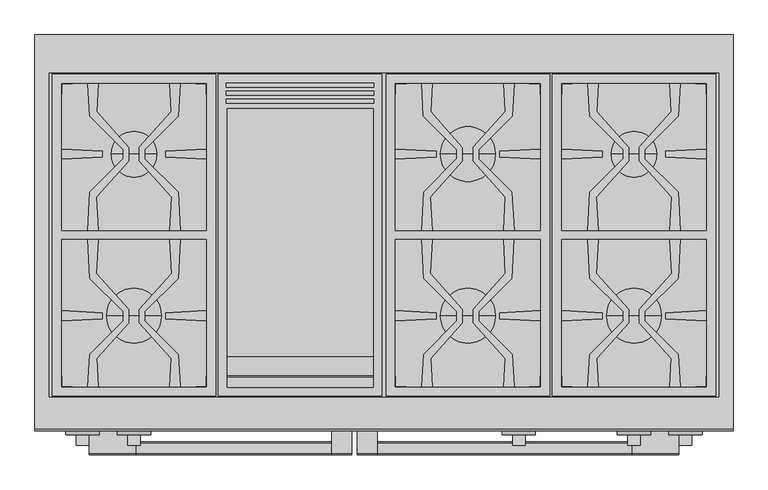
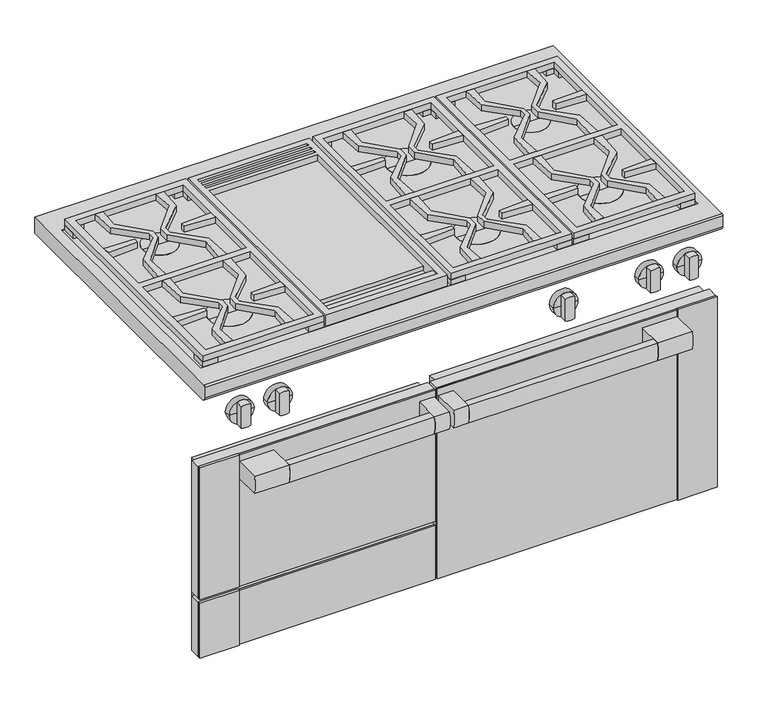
"""IFC4 building model written with IfcOpenShell, lengths in millimetres: proxy geometry, 11791700_USA_HR1956-3G_EDST-CLST : 25195681_USA_11791700_HR1956-3G_EDST-CLST."""

from ifc_helpers import new_model, si_unit, point, frame, frame_2d, origin, place, context, project, spatial, polyline, circle_curve, trimmed, segment, composite_curve, outline, extrude, faceted_brep, source, transform, mapped, element, save
from ifc_brep_helpers import plane_surface, cylinder_surface, advanced_brep


def specialty_equipment_1e4faf78(model_context):
    return source(origin(), model_context, "Body", "SolidModel", [
        faceted_brep([(608.5, -664.7, 684.0), (608.5, -664.7, 210.0), (515.5, -664.7, 210.0), (515.5, -664.7, 211.0), (607.5, -664.7, 211.0), (607.5, -664.7, 683.0), (515.5, -664.7, 683.0), (515.5, -664.7, 684.0), (608.5, -670.0, 684.0), (515.5, -670.0, 684.0), (515.5, -670.0, 210.0), (608.5, -670.0, 210.0), (515.5, -668.7, 683.0), (515.5, -668.7, 211.0), (607.5, -668.7, 683.0), (607.5, -668.7, 211.0)], [[[0, 1, 2, 3, 4, 5, 6, 7]], [[8, 9, 10, 11]], [[1, 0, 8, 11]], [[2, 1, 11, 10]], [[10, 9, 7, 6, 12, 13, 3, 2]], [[0, 7, 9, 8]], [[14, 15, 13, 12]], [[15, 14, 5, 4]], [[13, 15, 4, 3]], [[14, 12, 6, 5]]]),
        extrude(outline(polyline([(-48.5, -664.7), (607.5, -664.7), (607.5, -668.7), (-48.5, -668.7), (-48.5, -664.7)])), frame((0.0, 0.0, 211.0), z_axis=(0.0, 0.0, 1.0), x_axis=(1.0, 0.0, 0.0)), (0.0, 0.0, 1.0), 472.0),
        faceted_brep([(-515.5, -664.7, 355.0), (-608.5, -664.7, 355.0), (-608.5, -664.7, 684.0), (-515.5, -664.7, 684.0), (-515.5, -664.7, 683.0), (-607.5, -664.7, 683.0), (-607.5, -664.7, 356.0), (-515.5, -664.7, 356.0), (-515.5, -670.0, 684.0), (-608.5, -670.0, 684.0), (-608.5, -670.0, 355.0), (-515.5, -670.0, 355.0), (-515.5, -668.7, 356.0), (-515.5, -668.7, 683.0), (-607.5, -668.7, 356.0), (-607.5, -668.7, 683.0)], [[[0, 1, 2, 3, 4, 5, 6, 7]], [[8, 9, 10, 11]], [[8, 11, 0, 7, 12, 13, 4, 3]], [[1, 0, 11, 10]], [[2, 1, 10, 9]], [[3, 2, 9, 8]], [[12, 14, 15, 13]], [[14, 12, 7, 6]], [[15, 14, 6, 5]], [[13, 15, 5, 4]]]),
        extrude(outline(polyline([(-607.5, -664.7), (-53.5, -664.7), (-53.5, -668.7), (-607.5, -668.7), (-607.5, -664.7)])), frame((0.0, 0.0, 356.0), z_axis=(0.0, 0.0, 1.0), x_axis=(1.0, 0.0, 0.0)), (0.0, 0.0, 1.0), 327.0),
        faceted_brep([(-515.5, -664.7, 210.0), (-608.5, -664.7, 210.0), (-608.5, -664.7, 347.0), (-515.5, -664.7, 347.0), (-515.5, -664.7, 346.0), (-607.5, -664.7, 346.0), (-607.5, -664.7, 211.0), (-515.5, -664.7, 211.0), (-515.5, -670.0, 347.0), (-608.5, -670.0, 347.0), (-608.5, -670.0, 210.0), (-515.5, -670.0, 210.0), (-515.5, -668.7, 211.0), (-515.5, -668.7, 346.0), (-607.5, -668.7, 211.0), (-607.5, -668.7, 346.0)], [[[0, 1, 2, 3, 4, 5, 6, 7]], [[8, 9, 10, 11]], [[8, 11, 0, 7, 12, 13, 4, 3]], [[1, 0, 11, 10]], [[2, 1, 10, 9]], [[3, 2, 9, 8]], [[12, 14, 15, 13]], [[14, 12, 7, 6]], [[15, 14, 6, 5]], [[13, 15, 5, 4]]]),
        extrude(outline(polyline([(-607.5, -664.7), (-53.5, -664.7), (-53.5, -668.7), (-607.5, -668.7), (-607.5, -664.7)])), frame((0.0, 0.0, 211.0), z_axis=(0.0, 0.0, 1.0), x_axis=(1.0, 0.0, 0.0)), (0.0, 0.0, 1.0), 135.0),
        extrude(outline(polyline([(-608.5, -638.0), (-53.5, -638.0), (-53.5, -664.7), (-608.5, -664.7), (-608.5, -638.0)])), frame((0.0, 0.0, 356.0), z_axis=(0.0, 0.0, 1.0), x_axis=(1.0, 0.0, 0.0)), (0.0, 0.0, 1.0), 327.0),
        extrude(outline(polyline([(-48.5, -638.0), (608.5, -638.0), (608.5, -664.7), (-48.5, -664.7), (-48.5, -638.0)])), frame((0.0, 0.0, 211.0), z_axis=(0.0, 0.0, 1.0), x_axis=(1.0, 0.0, 0.0)), (0.0, 0.0, 1.0), 472.0),
        extrude(outline(polyline([(-608.5, -638.0), (-53.5, -638.0), (-53.5, -664.7), (-608.5, -664.7), (-608.5, -638.0)])), frame((0.0, 0.0, 211.0), z_axis=(0.0, 0.0, 1.0), x_axis=(1.0, 0.0, 0.0)), (0.0, 0.0, 1.0), 135.0),
        extrude(outline(polyline([(-36.5, -617.0), (596.5, -617.0), (596.5, -638.0), (-36.5, -638.0), (-36.5, -617.0)])), frame((0.0, 0.0, 218.0), z_axis=(0.0, 0.0, 1.0), x_axis=(1.0, 0.0, 0.0)), (0.0, 0.0, 1.0), 464.0),
        extrude(outline(polyline([(-596.5, -617.0), (-65.5, -617.0), (-65.5, -638.0), (-596.5, -638.0), (-596.5, -617.0)])), frame((0.0, 0.0, 359.0), z_axis=(0.0, 0.0, 1.0), x_axis=(1.0, 0.0, 0.0)), (0.0, 0.0, 1.0), 315.0),
        extrude(outline(polyline([(-596.5, -617.0), (-65.5, -617.0), (-65.5, -638.0), (-596.5, -638.0), (-596.5, -617.0)])), frame((0.0, 0.0, 211.5), z_axis=(0.0, 0.0, 1.0), x_axis=(1.0, 0.0, 0.0)), (0.0, 0.0, 1.0), 134.0),
        extrude(outline(composite_curve([segment(polyline([(-668.7, 667.0), (-668.7, 624.0), (-731.0, 624.0)]), True, "CONTINUOUS"), segment(trimmed(circle_curve(frame_2d((-655.4583333, 645.5)), 78.5416667), [point((-731.0, 624.0))], [point((-731.0, 667.0))], False, "CARTESIAN"), True, "CONTINUOUS"), segment(polyline([(-731.0, 667.0), (-668.7, 667.0)]), True, "CONTINUOUS")], self_intersect=False)), frame((-514.5, 0.0, 0.0), z_axis=(1.0, 0.0, 0.0), x_axis=(0.0, 1.0, 0.0)), (0.0, 0.0, 1.0), 81.0),
        extrude(outline(composite_curve([segment(polyline([(-731.0, 667.0), (-668.7, 667.0), (-668.7, 624.0), (-731.0, 624.0)]), True, "CONTINUOUS"), segment(trimmed(circle_curve(frame_2d((-655.4583333, 645.5)), 78.5416667), [point((-731.0, 624.0))], [point((-731.0, 667.0))], False, "CARTESIAN"), True, "CONTINUOUS")], self_intersect=False)), frame((433.5, 0.0, 0.0), z_axis=(1.0, 0.0, 0.0), x_axis=(0.0, 1.0, 0.0)), (0.0, 0.0, 1.0), 81.0),
        extrude(outline(composite_curve([segment(polyline([(-731.0, 667.0), (-668.7, 667.0), (-668.7, 624.0), (-731.0, 624.0)]), True, "CONTINUOUS"), segment(trimmed(circle_curve(frame_2d((-655.4583333, 645.5)), 78.5416667), [point((-731.0, 624.0))], [point((-731.0, 667.0))], False, "CARTESIAN"), True, "CONTINUOUS")], self_intersect=False)), frame((-91.5, 0.0, 0.0), z_axis=(1.0, 0.0, 0.0), x_axis=(0.0, 1.0, 0.0)), (0.0, 0.0, 1.0), 35.0),
        extrude(outline(composite_curve([segment(polyline([(-731.0, 667.0), (-668.7, 667.0), (-668.7, 624.0), (-731.0, 624.0)]), True, "CONTINUOUS"), segment(trimmed(circle_curve(frame_2d((-655.4583333, 645.5)), 78.5416667), [point((-731.0, 624.0))], [point((-731.0, 667.0))], False, "CARTESIAN"), True, "CONTINUOUS")], self_intersect=False)), frame((-46.5, 0.0, 0.0), z_axis=(1.0, 0.0, 0.0), x_axis=(0.0, 1.0, 0.0)), (0.0, 0.0, 1.0), 35.0),
        extrude(outline(composite_curve([segment(trimmed(circle_curve(frame_2d((-655.4583333, 645.5)), 78.5416667), [point((-731.0, 624.0))], [point((-731.0, 667.0))], False, "CARTESIAN"), True, "CONTINUOUS"), segment(polyline([(-731.0, 667.0), (-714.0, 667.0)]), True, "CONTINUOUS"), segment(trimmed(circle_curve(frame_2d((-789.5416667, 645.5)), 78.5416667), [point((-714.0, 667.0))], [point((-714.0, 624.0))], False, "CARTESIAN"), True, "CONTINUOUS"), segment(polyline([(-714.0, 624.0), (-731.0, 624.0)]), True, "CONTINUOUS")], self_intersect=False)), frame((-433.5, 0.0, 0.0), z_axis=(1.0, 0.0, 0.0), x_axis=(0.0, 1.0, 0.0)), (0.0, 0.0, 1.0), 342.0),
        extrude(outline(composite_curve([segment(trimmed(circle_curve(frame_2d((-655.4583333, 645.5)), 78.5416667), [point((-731.0, 624.0))], [point((-731.0, 667.0))], False, "CARTESIAN"), True, "CONTINUOUS"), segment(polyline([(-731.0, 667.0), (-714.0, 667.0)]), True, "CONTINUOUS"), segment(trimmed(circle_curve(frame_2d((-789.5416667, 645.5)), 78.5416667), [point((-714.0, 667.0))], [point((-714.0, 624.0))], False, "CARTESIAN"), True, "CONTINUOUS"), segment(polyline([(-714.0, 624.0), (-731.0, 624.0)]), True, "CONTINUOUS")], self_intersect=False)), frame((-11.5, 0.0, 0.0), z_axis=(1.0, 0.0, 0.0), x_axis=(0.0, 1.0, 0.0)), (0.0, 0.0, 1.0), 445.0),
        advanced_brep(
        [(609.5, 0.0, 902.0), (609.5, -688.3499547, 902.0), (609.5, -692.0, 898.3499547), (609.5, -692.0, 872.0), (609.5, -682.0, 862.0), (609.5, 0.0, 862.0), (-609.5, 0.0, 902.0), (-609.5, 0.0, 862.0), (-609.5, -682.0, 862.0), (-609.5, -692.0, 872.0), (-609.5, -692.0, 898.3499547), (-609.5, -688.3499547, 902.0), (-584.5, -67.0, 902.0), (584.5, -67.0, 902.0), (584.5, -633.0, 902.0), (-584.5, -633.0, 902.0), (584.5, -67.0, 870.0), (-584.5, -67.0, 870.0), (-584.5, -633.0, 870.0), (584.5, -633.0, 870.0)],
        [
            (0, 1),
            (1, 2, circle_curve(frame((609.5, -688.0, 898.0), z_axis=(1.0, 0.0, 0.0), x_axis=(0.0, 0.0, 1.0)), 4.0152794)),
            (2, 3),
            (3, 4, circle_curve(frame((609.5, -682.0, 872.0), z_axis=(1.0, 0.0, 0.0), x_axis=(0.0, 0.0, 1.0)), 10.0)),
            (4, 5),
            (5, 0),
            (6, 7),
            (7, 8),
            (8, 9, circle_curve(frame((-609.5, -682.0, 872.0), z_axis=(-1.0, 0.0, 0.0), x_axis=(0.0, 0.0, 1.0)), 10.0)),
            (9, 10),
            (10, 11, circle_curve(frame((-609.5, -688.0, 898.0), z_axis=(-1.0, 0.0, 0.0), x_axis=(0.0, 0.0, 1.0)), 4.0152794)),
            (11, 6),
            (0, 6),
            (11, 1),
            (12, 13),
            (13, 14),
            (14, 15),
            (15, 12),
            (10, 2),
            (9, 3),
            (8, 4),
            (7, 5),
            (16, 17),
            (17, 18),
            (18, 19),
            (19, 16),
            (16, 13),
            (12, 17),
            (15, 18),
            (14, 19),
        ],
        [
            plane_surface(frame((609.5, -688.3499547, 902.0), z_axis=(1.0, 0.0, 0.0), x_axis=(0.0, -1.0, 0.0))),
            plane_surface(frame((-609.5, -688.3499547, 902.0), z_axis=(-1.0, 0.0, 0.0), x_axis=(0.0, 1.0, 0.0))),
            plane_surface(frame((609.5, 0.0, 902.0), z_axis=(0.0, 0.0, 1.0), x_axis=(-1.0, 0.0, 0.0))),
            cylinder_surface(frame((-609.5, -688.0, 898.0), z_axis=(1.0, 0.0, 0.0), x_axis=(0.0, 0.0, 1.0)), 4.0152794),
            plane_surface(frame((609.5, -692.0, 898.3499547), z_axis=(0.0, -1.0, 0.0), x_axis=(-1.0, 0.0, 0.0))),
            cylinder_surface(frame((-609.5, -682.0, 872.0), z_axis=(1.0, 0.0, 0.0), x_axis=(0.0, 0.0, 1.0)), 10.0),
            plane_surface(frame((609.5, -682.0, 862.0), z_axis=(0.0, 0.0, -1.0), x_axis=(-1.0, 0.0, 0.0))),
            plane_surface(frame((609.5, 0.0, 862.0), z_axis=(0.0, 1.0, 0.0), x_axis=(-1.0, 0.0, 0.0))),
            plane_surface(frame((-584.5, -67.0, 870.0), z_axis=(0.0, 0.0, 1.0), x_axis=(1.0, 0.0, 0.0))),
            plane_surface(frame((584.5, -67.0, 902.0), z_axis=(0.0, -1.0, 0.0), x_axis=(0.0, 0.0, -1.0))),
            plane_surface(frame((-584.5, -67.0, 902.0), z_axis=(1.0, 0.0, 0.0), x_axis=(0.0, 0.0, -1.0))),
            plane_surface(frame((-584.5, -633.0, 902.0), z_axis=(0.0, 1.0, 0.0), x_axis=(0.0, 0.0, -1.0))),
            plane_surface(frame((584.5, -633.0, 902.0), z_axis=(-1.0, 0.0, 0.0), x_axis=(0.0, 0.0, -1.0))),
        ],
        [
            (0, [[1, 2, 3, 4, 5, 6]]),
            (1, [[7, 8, 9, 10, 11, 12]]),
            (2, [[-1, 13, -12, 14], [15, 16, 17, 18]]),
            (3, [[-2, -14, -11, 19]]),
            (4, [[-3, -19, -10, 20]]),
            (5, [[-4, -20, -9, 21]]),
            (6, [[-5, -21, -8, 22]]),
            (7, [[-6, -22, -7, -13]]),
            (8, [[23, 24, 25, 26]]),
            (9, [[-23, 27, -15, 28]]),
            (10, [[-24, -28, -18, 29]]),
            (11, [[-25, -29, -17, 30]]),
            (12, [[-26, -30, -16, -27]]),
        ],
    ),
        advanced_brep(
        [(98.5, -491.0, 887.0), (194.5, -491.0, 887.0), (194.5, -491.0, 901.0), (98.5, -491.0, 901.0), (146.5, -491.0, 887.0), (146.5, -491.0, 901.0)],
        [
            (0, 1, circle_curve(frame((146.5, -491.0, 887.0), z_axis=(0.0, 0.0, 1.0), x_axis=(1.0, 0.0, 0.0)), 48.0)),
            (1, 2),
            (2, 3, circle_curve(frame((146.5, -491.0, 901.0), z_axis=(0.0, 0.0, -1.0), x_axis=(1.0, 0.0, 0.0)), 48.0)),
            (3, 0),
            (1, 0, circle_curve(frame((146.5, -491.0, 887.0), z_axis=(0.0, 0.0, 1.0), x_axis=(1.0, 0.0, 0.0)), 48.0)),
            (3, 2, circle_curve(frame((146.5, -491.0, 901.0), z_axis=(0.0, 0.0, -1.0), x_axis=(1.0, 0.0, 0.0)), 48.0)),
            (4, 1),
            (0, 4),
            (2, 5),
            (5, 3),
        ],
        [
            cylinder_surface(frame((146.5, -491.0, 2424.4), z_axis=(0.0, 0.0, -1.0), x_axis=(1.0, 0.0, 0.0)), 48.0),
            plane_surface(frame((146.5, -491.0, 887.0), z_axis=(0.0, 0.0, -1.0), x_axis=(1.0, 0.0, 0.0))),
            plane_surface(frame((146.5, -491.0, 901.0), z_axis=(0.0, 0.0, 1.0), x_axis=(1.0, 0.0, 0.0))),
        ],
        [
            (0, [[1, 2, 3, 4]]),
            (0, [[5, -4, 6, -2]]),
            (1, [[7, -1, 8]]),
            (1, [[-8, -5, -7]]),
            (2, [[-3, 9, 10]]),
            (2, [[-6, -10, -9]]),
        ],
    ),
        advanced_brep(
        [(98.5, -208.5, 887.0), (194.5, -208.5, 887.0), (194.5, -208.5, 901.0), (98.5, -208.5, 901.0), (146.5, -208.5, 887.0), (146.5, -208.5, 901.0)],
        [
            (0, 1, circle_curve(frame((146.5, -208.5, 887.0), z_axis=(0.0, 0.0, 1.0), x_axis=(1.0, 0.0, 0.0)), 48.0)),
            (1, 2),
            (2, 3, circle_curve(frame((146.5, -208.5, 901.0), z_axis=(0.0, 0.0, -1.0), x_axis=(1.0, 0.0, 0.0)), 48.0)),
            (3, 0),
            (1, 0, circle_curve(frame((146.5, -208.5, 887.0), z_axis=(0.0, 0.0, 1.0), x_axis=(1.0, 0.0, 0.0)), 48.0)),
            (3, 2, circle_curve(frame((146.5, -208.5, 901.0), z_axis=(0.0, 0.0, -1.0), x_axis=(1.0, 0.0, 0.0)), 48.0)),
            (4, 1),
            (0, 4),
            (2, 5),
            (5, 3),
        ],
        [
            cylinder_surface(frame((146.5, -208.5, 2338.4), z_axis=(0.0, 0.0, -1.0), x_axis=(1.0, 0.0, 0.0)), 48.0),
            plane_surface(frame((146.5, -208.5, 887.0), z_axis=(0.0, 0.0, -1.0), x_axis=(1.0, 0.0, 0.0))),
            plane_surface(frame((146.5, -208.5, 901.0), z_axis=(0.0, 0.0, 1.0), x_axis=(1.0, 0.0, 0.0))),
        ],
        [
            (0, [[1, 2, 3, 4]]),
            (0, [[5, -4, 6, -2]]),
            (1, [[7, -1, 8]]),
            (1, [[-8, -5, -7]]),
            (2, [[-3, 9, 10]]),
            (2, [[-6, -10, -9]]),
        ],
    ),
        extrude(outline(polyline([(289.0, -631.0), (254.0, -631.0), (254.0, -615.0), (273.0337834, -615.0), (273.0337834, -596.0), (289.0, -596.0), (289.0, -631.0)])), frame((0.0, 0.0, 887.0), z_axis=(0.0, 0.0, 1.0), x_axis=(1.0, 0.0, 0.0)), (0.0, 0.0, 1.0), 27.0),
        extrude(outline(polyline([(4.0, -631.0), (4.0, -596.0), (20.0337834, -596.0), (20.0337834, -615.0), (39.0, -615.0), (39.0, -631.0), (4.0, -631.0)])), frame((0.0, 0.0, 887.0), z_axis=(0.0, 0.0, 1.0), x_axis=(1.0, 0.0, 0.0)), (0.0, 0.0, 1.0), 27.0),
        extrude(outline(polyline([(289.0, -69.0), (289.0, -104.0), (273.0337834, -104.0), (273.0337834, -85.0), (254.0, -85.0), (254.0, -69.0), (289.0, -69.0)])), frame((0.0, 0.0, 887.0), z_axis=(0.0, 0.0, 1.0), x_axis=(1.0, 0.0, 0.0)), (0.0, 0.0, 1.0), 27.0),
        extrude(outline(polyline([(4.0, -69.0), (39.0, -69.0), (39.0, -85.0), (20.0337834, -85.0), (20.0337834, -104.0), (4.0, -104.0), (4.0, -69.0)])), frame((0.0, 0.0, 887.0), z_axis=(0.0, 0.0, 1.0), x_axis=(1.0, 0.0, 0.0)), (0.0, 0.0, 1.0), 27.0),
        extrude(outline(polyline([(579.0, -631.0), (544.0, -631.0), (544.0, -615.0), (563.0, -615.0), (563.0, -596.0), (579.0, -596.0), (579.0, -631.0)])), frame((0.0, 0.0, 887.0), z_axis=(0.0, 0.0, 1.0), x_axis=(1.0, 0.0, 0.0)), (0.0, 0.0, 1.0), 27.0),
        extrude(outline(polyline([(294.0, -631.0), (294.0, -596.0), (310.0125078, -596.0), (310.0125078, -615.0), (329.0, -615.0), (329.0, -631.0), (294.0, -631.0)])), frame((0.0, 0.0, 887.0), z_axis=(0.0, 0.0, 1.0), x_axis=(1.0, 0.0, 0.0)), (0.0, 0.0, 1.0), 27.0),
        extrude(outline(polyline([(579.0, -69.0), (579.0, -104.0), (562.9874922, -104.0), (562.9874922, -85.0), (544.0, -85.0), (544.0, -69.0), (579.0, -69.0)])), frame((0.0, 0.0, 887.0), z_axis=(0.0, 0.0, 1.0), x_axis=(1.0, 0.0, 0.0)), (0.0, 0.0, 1.0), 27.0),
        extrude(outline(polyline([(294.0, -69.0), (329.0, -69.0), (329.0, -85.0), (310.0125078, -85.0), (310.0125078, -104.0), (294.0, -104.0), (294.0, -69.0)])), frame((0.0, 0.0, 887.0), z_axis=(0.0, 0.0, 1.0), x_axis=(1.0, 0.0, 0.0)), (0.0, 0.0, 1.0), 27.0),
        advanced_brep(
        [(-476.5, -208.5, 887.0), (-396.5, -208.5, 887.0), (-396.5, -208.5, 901.0), (-476.5, -208.5, 901.0), (-436.5, -208.5, 887.0), (-436.5, -208.5, 901.0)],
        [
            (0, 1, circle_curve(frame((-436.5, -208.5, 887.0), z_axis=(0.0, 0.0, 1.0), x_axis=(1.0, 0.0, 0.0)), 40.0)),
            (1, 2),
            (2, 3, circle_curve(frame((-436.5, -208.5, 901.0), z_axis=(0.0, 0.0, -1.0), x_axis=(1.0, 0.0, 0.0)), 40.0)),
            (3, 0),
            (1, 0, circle_curve(frame((-436.5, -208.5, 887.0), z_axis=(0.0, 0.0, 1.0), x_axis=(1.0, 0.0, 0.0)), 40.0)),
            (3, 2, circle_curve(frame((-436.5, -208.5, 901.0), z_axis=(0.0, 0.0, -1.0), x_axis=(1.0, 0.0, 0.0)), 40.0)),
            (4, 1),
            (0, 4),
            (2, 5),
            (5, 3),
        ],
        [
            cylinder_surface(frame((-436.5, -208.5, 2424.4), z_axis=(0.0, 0.0, -1.0), x_axis=(1.0, 0.0, 0.0)), 40.0),
            plane_surface(frame((-436.5, -208.5, 887.0), z_axis=(0.0, 0.0, -1.0), x_axis=(1.0, 0.0, 0.0))),
            plane_surface(frame((-436.5, -208.5, 901.0), z_axis=(0.0, 0.0, 1.0), x_axis=(1.0, 0.0, 0.0))),
        ],
        [
            (0, [[1, 2, 3, 4]]),
            (0, [[5, -4, 6, -2]]),
            (1, [[7, -1, 8]]),
            (1, [[-8, -5, -7]]),
            (2, [[-3, 9, 10]]),
            (2, [[-6, -10, -9]]),
        ],
    ),
        advanced_brep(
        [(-484.5, -491.0, 887.0), (-388.5, -491.0, 887.0), (-388.5, -491.0, 901.0), (-484.5, -491.0, 901.0), (-436.5, -491.0, 887.0), (-436.5, -491.0, 901.0)],
        [
            (0, 1, circle_curve(frame((-436.5, -491.0, 887.0), z_axis=(0.0, 0.0, 1.0), x_axis=(1.0, 0.0, 0.0)), 48.0)),
            (1, 2),
            (2, 3, circle_curve(frame((-436.5, -491.0, 901.0), z_axis=(0.0, 0.0, -1.0), x_axis=(1.0, 0.0, 0.0)), 48.0)),
            (3, 0),
            (1, 0, circle_curve(frame((-436.5, -491.0, 887.0), z_axis=(0.0, 0.0, 1.0), x_axis=(1.0, 0.0, 0.0)), 48.0)),
            (3, 2, circle_curve(frame((-436.5, -491.0, 901.0), z_axis=(0.0, 0.0, -1.0), x_axis=(1.0, 0.0, 0.0)), 48.0)),
            (4, 1),
            (0, 4),
            (2, 5),
            (5, 3),
        ],
        [
            cylinder_surface(frame((-436.5, -491.0, 2424.4), z_axis=(0.0, 0.0, -1.0), x_axis=(1.0, 0.0, 0.0)), 48.0),
            plane_surface(frame((-436.5, -491.0, 887.0), z_axis=(0.0, 0.0, -1.0), x_axis=(1.0, 0.0, 0.0))),
            plane_surface(frame((-436.5, -491.0, 901.0), z_axis=(0.0, 0.0, 1.0), x_axis=(1.0, 0.0, 0.0))),
        ],
        [
            (0, [[1, 2, 3, 4]]),
            (0, [[5, -4, 6, -2]]),
            (1, [[7, -1, 8]]),
            (1, [[-8, -5, -7]]),
            (2, [[-3, 9, 10]]),
            (2, [[-6, -10, -9]]),
        ],
    ),
        advanced_brep(
        [(388.5, -491.0, 887.0), (484.5, -491.0, 887.0), (484.5, -491.0, 901.0), (388.5, -491.0, 901.0), (436.5, -491.0, 887.0), (436.5, -491.0, 901.0)],
        [
            (0, 1, circle_curve(frame((436.5, -491.0, 887.0), z_axis=(0.0, 0.0, 1.0), x_axis=(1.0, 0.0, 0.0)), 48.0)),
            (1, 2),
            (2, 3, circle_curve(frame((436.5, -491.0, 901.0), z_axis=(0.0, 0.0, -1.0), x_axis=(1.0, 0.0, 0.0)), 48.0)),
            (3, 0),
            (1, 0, circle_curve(frame((436.5, -491.0, 887.0), z_axis=(0.0, 0.0, 1.0), x_axis=(1.0, 0.0, 0.0)), 48.0)),
            (3, 2, circle_curve(frame((436.5, -491.0, 901.0), z_axis=(0.0, 0.0, -1.0), x_axis=(1.0, 0.0, 0.0)), 48.0)),
            (4, 1),
            (0, 4),
            (2, 5),
            (5, 3),
        ],
        [
            cylinder_surface(frame((436.5, -491.0, 2424.4), z_axis=(0.0, 0.0, -1.0), x_axis=(1.0, 0.0, 0.0)), 48.0),
            plane_surface(frame((436.5, -491.0, 887.0), z_axis=(0.0, 0.0, -1.0), x_axis=(1.0, 0.0, 0.0))),
            plane_surface(frame((436.5, -491.0, 901.0), z_axis=(0.0, 0.0, 1.0), x_axis=(1.0, 0.0, 0.0))),
        ],
        [
            (0, [[1, 2, 3, 4]]),
            (0, [[5, -4, 6, -2]]),
            (1, [[7, -1, 8]]),
            (1, [[-8, -5, -7]]),
            (2, [[-3, 9, 10]]),
            (2, [[-6, -10, -9]]),
        ],
    ),
        extrude(outline(polyline([(-294.0, -69.0), (-294.0, -631.0), (-579.0, -631.0), (-579.0, -69.0), (-294.0, -69.0)]), holes=[polyline([(-310.0, -85.0), (-563.0, -85.0), (-563.0, -342.0), (-310.0, -342.0), (-310.0, -85.0)]), polyline([(-563.0, -358.0), (-563.0, -615.0), (-310.0, -615.0), (-310.0, -358.0), (-563.0, -358.0)])]), frame((0.0, 0.0, 914.0), z_axis=(0.0, 0.0, 1.0), x_axis=(1.0, 0.0, 0.0)), (0.0, 0.0, 1.0), 15.0),
        extrude(outline(polyline([(579.0, -69.0), (579.0, -631.0), (294.0, -631.0), (294.0, -69.0), (579.0, -69.0)]), holes=[polyline([(563.0, -85.0), (310.0, -85.0), (310.0, -342.0), (563.0, -342.0), (563.0, -85.0)]), polyline([(310.0, -358.0), (310.0, -615.0), (563.0, -615.0), (563.0, -358.0), (310.0, -358.0)])]), frame((0.0, 0.0, 914.0), z_axis=(0.0, 0.0, 1.0), x_axis=(1.0, 0.0, 0.0)), (0.0, 0.0, 1.0), 15.0),
        extrude(outline(polyline([(289.0, -69.0), (289.0, -631.0), (4.0, -631.0), (4.0, -69.0), (289.0, -69.0)]), holes=[polyline([(273.0337834, -85.0), (20.0337834, -85.0), (20.0337834, -342.0), (273.0337834, -342.0), (273.0337834, -85.0)]), polyline([(20.0337834, -358.0), (20.0337834, -615.0), (273.0337834, -615.0), (273.0337834, -358.0), (20.0337834, -358.0)])]), frame((0.0, 0.0, 914.0), z_axis=(0.0, 0.0, 1.0), x_axis=(1.0, 0.0, 0.0)), (0.0, 0.0, 1.0), 15.0),
        advanced_brep(
        [(396.5, -208.5, 887.0), (476.5, -208.5, 887.0), (476.5, -208.5, 901.0), (396.5, -208.5, 901.0), (436.5, -208.5, 887.0), (436.5, -208.5, 901.0)],
        [
            (0, 1, circle_curve(frame((436.5, -208.5, 887.0), z_axis=(0.0, 0.0, 1.0), x_axis=(1.0, 0.0, 0.0)), 40.0)),
            (1, 2),
            (2, 3, circle_curve(frame((436.5, -208.5, 901.0), z_axis=(0.0, 0.0, -1.0), x_axis=(1.0, 0.0, 0.0)), 40.0)),
            (3, 0),
            (1, 0, circle_curve(frame((436.5, -208.5, 887.0), z_axis=(0.0, 0.0, 1.0), x_axis=(1.0, 0.0, 0.0)), 40.0)),
            (3, 2, circle_curve(frame((436.5, -208.5, 901.0), z_axis=(0.0, 0.0, -1.0), x_axis=(1.0, 0.0, 0.0)), 40.0)),
            (4, 1),
            (0, 4),
            (2, 5),
            (5, 3),
        ],
        [
            cylinder_surface(frame((436.5, -208.5, 2424.4), z_axis=(0.0, 0.0, -1.0), x_axis=(1.0, 0.0, 0.0)), 40.0),
            plane_surface(frame((436.5, -208.5, 887.0), z_axis=(0.0, 0.0, -1.0), x_axis=(1.0, 0.0, 0.0))),
            plane_surface(frame((436.5, -208.5, 901.0), z_axis=(0.0, 0.0, 1.0), x_axis=(1.0, 0.0, 0.0))),
        ],
        [
            (0, [[1, 2, 3, 4]]),
            (0, [[5, -4, 6, -2]]),
            (1, [[7, -1, 8]]),
            (1, [[-8, -5, -7]]),
            (2, [[-3, 9, 10]]),
            (2, [[-6, -10, -9]]),
        ],
    ),
        extrude(outline(polyline([(20.0337834, -217.4810574), (20.0337834, -199.5189426), (91.0337834, -203.2078739), (91.0337834, -213.7921261), (20.0337834, -217.4810574)])), frame((0.0, 0.0, 914.0), z_axis=(0.0, 0.0, 1.0), x_axis=(1.0, 0.0, 0.0)), (0.0, 0.0, 1.0), 15.0),
        extrude(outline(polyline([(273.0337834, -199.5262039), (273.0337834, -217.4737961), (202.0337834, -213.7790477), (202.0337834, -203.2209523), (273.0337834, -199.5262039)])), frame((0.0, 0.0, 914.0), z_axis=(0.0, 0.0, 1.0), x_axis=(1.0, 0.0, 0.0)), (0.0, 0.0, 1.0), 15.0),
        extrude(outline(polyline([(-294.0, -631.0), (-329.0, -631.0), (-329.0, -615.0), (-310.0, -615.0), (-310.0, -596.0), (-294.0, -596.0), (-294.0, -631.0)])), frame((0.0, 0.0, 887.0), z_axis=(0.0, 0.0, 1.0), x_axis=(1.0, 0.0, 0.0)), (0.0, 0.0, 1.0), 27.0),
        extrude(outline(polyline([(-579.0, -631.0), (-579.0, -596.0), (-563.0, -596.0), (-563.0, -615.0), (-544.0, -615.0), (-544.0, -631.0), (-579.0, -631.0)])), frame((0.0, 0.0, 887.0), z_axis=(0.0, 0.0, 1.0), x_axis=(1.0, 0.0, 0.0)), (0.0, 0.0, 1.0), 27.0),
        extrude(outline(polyline([(-294.0, -69.0), (-294.0, -104.0), (-310.0, -104.0), (-310.0, -85.0), (-329.0, -85.0), (-329.0, -69.0), (-294.0, -69.0)])), frame((0.0, 0.0, 887.0), z_axis=(0.0, 0.0, 1.0), x_axis=(1.0, 0.0, 0.0)), (0.0, 0.0, 1.0), 27.0),
        extrude(outline(polyline([(-579.0, -69.0), (-544.0, -69.0), (-544.0, -85.0), (-563.0, -85.0), (-563.0, -104.0), (-579.0, -104.0), (-579.0, -69.0)])), frame((0.0, 0.0, 887.0), z_axis=(0.0, 0.0, 1.0), x_axis=(1.0, 0.0, 0.0)), (0.0, 0.0, 1.0), 27.0),
        extrude(outline(polyline([(-517.0385862, -85.0), (-499.0385862, -85.0), (-501.6338026, -134.5196799), (-446.0, -196.6082182), (-446.0, -220.3917818), (-502.1289218, -283.0328838), (-499.0385862, -342.0), (-517.0385862, -342.0), (-513.5028157, -274.5334805), (-455.6108918, -216.6415566), (-455.6108918, -200.3584434), (-514.0558783, -141.9134569), (-517.0385862, -85.0)])), frame((0.0, 0.0, 914.0), z_axis=(0.0, 0.0, 1.0), x_axis=(1.0, 0.0, 0.0)), (0.0, 0.0, 1.0), 15.0),
        extrude(outline(polyline([(-356.0, -85.0), (-358.9827079, -141.9134569), (-417.3891082, -200.3198573), (-417.3891082, -216.6801428), (-359.5357705, -274.5334805), (-356.0, -342.0), (-374.0, -342.0), (-370.9096644, -283.0328839), (-427.0, -220.4348449), (-427.0, -196.5651551), (-371.4047835, -134.5196799), (-374.0, -85.0), (-356.0, -85.0)])), frame((0.0, 0.0, 914.0), z_axis=(0.0, 0.0, 1.0), x_axis=(1.0, 0.0, 0.0)), (0.0, 0.0, 1.0), 15.0),
        extrude(outline(polyline([(310.0, -217.4810574), (310.0, -199.5189426), (381.0, -203.2078739), (381.0, -213.7921261), (310.0, -217.4810574)])), frame((0.0, 0.0, 914.0), z_axis=(0.0, 0.0, 1.0), x_axis=(1.0, 0.0, 0.0)), (0.0, 0.0, 1.0), 15.0),
        extrude(outline(polyline([(563.0, -199.5262039), (563.0, -217.4737961), (492.0, -213.7790477), (492.0, -203.2209523), (563.0, -199.5262039)])), frame((0.0, 0.0, 914.0), z_axis=(0.0, 0.0, 1.0), x_axis=(1.0, 0.0, 0.0)), (0.0, 0.0, 1.0), 15.0),
        extrude(outline(polyline([(310.0, -499.9810574), (310.0, -482.0189426), (381.0, -485.7078739), (381.0, -496.2921261), (310.0, -499.9810574)])), frame((0.0, 0.0, 914.0), z_axis=(0.0, 0.0, 1.0), x_axis=(1.0, 0.0, 0.0)), (0.0, 0.0, 1.0), 15.0),
        extrude(outline(polyline([(563.0, -482.0262039), (563.0, -499.9737961), (492.0, -496.2790477), (492.0, -485.7209523), (563.0, -482.0262039)])), frame((0.0, 0.0, 914.0), z_axis=(0.0, 0.0, 1.0), x_axis=(1.0, 0.0, 0.0)), (0.0, 0.0, 1.0), 15.0),
        extrude(outline(polyline([(20.0337834, -499.9810574), (20.0337834, -482.0189426), (91.0337834, -485.7078739), (91.0337834, -496.2921261), (20.0337834, -499.9810574)])), frame((0.0, 0.0, 914.0), z_axis=(0.0, 0.0, 1.0), x_axis=(1.0, 0.0, 0.0)), (0.0, 0.0, 1.0), 15.0),
        extrude(outline(polyline([(273.0337834, -482.0262039), (273.0337834, -499.9737961), (202.0337834, -496.2790477), (202.0337834, -485.7209523), (273.0337834, -482.0262039)])), frame((0.0, 0.0, 914.0), z_axis=(0.0, 0.0, 1.0), x_axis=(1.0, 0.0, 0.0)), (0.0, 0.0, 1.0), 15.0),
        extrude(outline(polyline([(-563.0, -499.9810574), (-563.0, -482.0189426), (-492.0, -485.7078739), (-492.0, -496.2921261), (-563.0, -499.9810574)])), frame((0.0, 0.0, 914.0), z_axis=(0.0, 0.0, 1.0), x_axis=(1.0, 0.0, 0.0)), (0.0, 0.0, 1.0), 15.0),
        extrude(outline(polyline([(-310.0, -482.0262039), (-310.0, -499.9737961), (-381.0, -496.2790477), (-381.0, -485.7209523), (-310.0, -482.0262039)])), frame((0.0, 0.0, 914.0), z_axis=(0.0, 0.0, 1.0), x_axis=(1.0, 0.0, 0.0)), (0.0, 0.0, 1.0), 15.0),
        extrude(outline(polyline([(-563.0, -217.4810574), (-563.0, -199.5189426), (-492.0, -203.2078739), (-492.0, -213.7921261), (-563.0, -217.4810574)])), frame((0.0, 0.0, 914.0), z_axis=(0.0, 0.0, 1.0), x_axis=(1.0, 0.0, 0.0)), (0.0, 0.0, 1.0), 15.0),
        extrude(outline(polyline([(-310.0, -199.5262039), (-310.0, -217.4737961), (-381.0, -213.7790477), (-381.0, -203.2209523), (-310.0, -199.5262039)])), frame((0.0, 0.0, 914.0), z_axis=(0.0, 0.0, 1.0), x_axis=(1.0, 0.0, 0.0)), (0.0, 0.0, 1.0), 15.0),
        extrude(outline(polyline([(289.0, -69.0), (289.0, -631.0), (4.0, -631.0), (4.0, -69.0), (289.0, -69.0)])), frame((0.0, 0.0, 870.0), z_axis=(0.0, 0.0, 1.0), x_axis=(1.0, 0.0, 0.0)), (0.0, 0.0, 1.0), 17.0),
        extrude(outline(polyline([(-294.0, -67.0), (-294.0, -633.0), (-579.0, -633.0), (-579.0, -67.0), (-294.0, -67.0)])), frame((0.0, 0.0, 870.0), z_axis=(0.0, 0.0, 1.0), x_axis=(1.0, 0.0, 0.0)), (0.0, 0.0, 1.0), 17.0),
        extrude(outline(polyline([(579.0, -67.0), (579.0, -633.0), (294.0, -633.0), (294.0, -67.0), (579.0, -67.0)])), frame((0.0, 0.0, 870.0), z_axis=(0.0, 0.0, 1.0), x_axis=(1.0, 0.0, 0.0)), (0.0, 0.0, 1.0), 17.0),
        extrude(outline(polyline([(83.9614138, -85.0), (81.3661974, -134.5196799), (137.0, -196.6082182), (137.0, -220.3917818), (80.8710782, -283.0328838), (83.9614138, -342.0), (65.9614138, -342.0), (69.4971843, -274.5334805), (127.3891082, -216.6415566), (127.3891082, -200.3584434), (68.9441217, -141.9134569), (65.9614138, -85.0), (83.9614138, -85.0)])), frame((0.0, 0.0, 914.0), z_axis=(0.0, 0.0, 1.0), x_axis=(1.0, 0.0, 0.0)), (0.0, 0.0, 1.0), 15.0),
        extrude(outline(polyline([(211.5952165, -134.5196799), (209.0, -85.0), (227.0, -85.0), (224.0172921, -141.9134569), (165.6108918, -200.3198573), (165.6108918, -216.6801428), (223.4642295, -274.5334805), (227.0, -342.0), (209.0, -342.0), (212.0903356, -283.0328839), (156.0, -220.4348449), (156.0, -196.5651551), (211.5952165, -134.5196799)])), frame((0.0, 0.0, 914.0), z_axis=(0.0, 0.0, 1.0), x_axis=(1.0, 0.0, 0.0)), (0.0, 0.0, 1.0), 15.0),
        extrude(outline(polyline([(355.9614138, -85.0), (373.9614138, -85.0), (371.3661974, -134.5196799), (427.0, -196.6082182), (427.0, -220.3917818), (370.8710782, -283.0328838), (373.9614138, -342.0), (355.9614138, -342.0), (359.4971843, -274.5334805), (417.3891082, -216.6415566), (417.3891082, -200.3584434), (358.9441217, -141.9134569), (355.9614138, -85.0)])), frame((0.0, 0.0, 914.0), z_axis=(0.0, 0.0, 1.0), x_axis=(1.0, 0.0, 0.0)), (0.0, 0.0, 1.0), 15.0),
        extrude(outline(polyline([(499.0, -85.0), (517.0, -85.0), (514.0172921, -141.9134569), (455.6108918, -200.3198573), (455.6108918, -216.6801428), (513.4642295, -274.5334805), (517.0, -342.0), (499.0, -342.0), (502.0903356, -283.0328839), (446.0, -220.4348449), (446.0, -196.5651551), (501.5952165, -134.5196799), (499.0, -85.0)])), frame((0.0, 0.0, 914.0), z_axis=(0.0, 0.0, 1.0), x_axis=(1.0, 0.0, 0.0)), (0.0, 0.0, 1.0), 15.0),
        extrude(outline(polyline([(-358.9561608, -558.1021355), (-355.9537513, -615.0212482), (-373.958529, -615.0212482), (-371.3779352, -565.4581775), (-427.0409298, -503.3795395), (-427.0409298, -479.6049953), (-370.9333083, -416.9448139), (-374.0411265, -358.0273828), (-356.0465434, -358.0273828), (-359.5565254, -425.4403498), (-417.4287769, -483.3126013), (-417.4287769, -499.6295194), (-358.9561608, -558.1021355)])), frame((0.0, 0.0, 914.0), z_axis=(0.0, 0.0, 1.0), x_axis=(1.0, 0.0, 0.0)), (0.0, 0.0, 1.0), 15.0),
        extrude(outline(polyline([(-501.6069467, -565.5024535), (-498.9948945, -615.0212482), (-516.9945748, -615.0212482), (-514.0293542, -558.0710081), (-455.6505447, -499.6921986), (-455.6505447, -483.3657133), (-513.5235617, -425.4926963), (-517.0822696, -358.0273828), (-499.0825893, -358.0273828), (-502.1525581, -416.9894265), (-446.0409434, -479.568392), (-446.0409434, -503.4471434), (-501.6069467, -565.5024535)])), frame((0.0, 0.0, 914.0), z_axis=(0.0, 0.0, 1.0), x_axis=(1.0, 0.0, 0.0)), (0.0, 0.0, 1.0), 15.0),
        extrude(outline(polyline([(65.9177304, -358.0273828), (83.9174107, -358.0273828), (80.8474419, -416.9894265), (136.9590566, -479.568392), (136.9590566, -503.4471434), (81.3930533, -565.5024535), (84.0051055, -615.0212482), (66.0054252, -615.0212482), (68.9706458, -558.0710081), (127.3494553, -499.6921986), (127.3494553, -483.3657133), (69.4764383, -425.4926963), (65.9177304, -358.0273828)])), frame((0.0, 0.0, 914.0), z_axis=(0.0, 0.0, 1.0), x_axis=(1.0, 0.0, 0.0)), (0.0, 0.0, 1.0), 15.0),
        extrude(outline(polyline([(212.0666917, -416.9448139), (208.9588735, -358.0273828), (226.9534566, -358.0273828), (223.4434746, -425.4403498), (165.5712231, -483.3126013), (165.5712231, -499.6295194), (224.0438392, -558.1021355), (227.0462487, -615.0212482), (209.041471, -615.0212482), (211.6220648, -565.4581775), (155.9590702, -503.3795395), (155.9590702, -479.6049953), (212.0666917, -416.9448139)])), frame((0.0, 0.0, 914.0), z_axis=(0.0, 0.0, 1.0), x_axis=(1.0, 0.0, 0.0)), (0.0, 0.0, 1.0), 15.0),
        extrude(outline(polyline([(355.9177304, -358.0273828), (373.9174107, -358.0273828), (370.8474419, -416.9894265), (426.9590566, -479.568392), (426.9590566, -503.4471434), (371.3930533, -565.5024535), (374.0051055, -615.0212482), (356.0054252, -615.0212482), (358.9706458, -558.0710081), (417.3494553, -499.6921986), (417.3494553, -483.3657133), (359.4764383, -425.4926963), (355.9177304, -358.0273828)])), frame((0.0, 0.0, 914.0), z_axis=(0.0, 0.0, 1.0), x_axis=(1.0, 0.0, 0.0)), (0.0, 0.0, 1.0), 15.0),
        extrude(outline(polyline([(502.0666917, -416.9448139), (498.9588735, -358.0273828), (516.9534566, -358.0273828), (513.4434746, -425.4403498), (455.5712231, -483.3126013), (455.5712231, -499.6295194), (514.0438392, -558.1021355), (517.0462487, -615.0212482), (499.041471, -615.0212482), (501.6220648, -565.4581775), (445.9590702, -503.3795395), (445.9590702, -479.6049953), (502.0666917, -416.9448139)])), frame((0.0, 0.0, 914.0), z_axis=(0.0, 0.0, 1.0), x_axis=(1.0, 0.0, 0.0)), (0.0, 0.0, 1.0), 15.0),
        extrude(outline(polyline([(584.5, -67.0), (584.5, -633.0), (-584.5, -633.0), (-584.5, -67.0), (584.5, -67.0)])), frame((0.0, 0.0, 870.0), z_axis=(0.0, 0.0, 1.0), x_axis=(1.0, 0.0, 0.0)), (0.0, 0.0, 1.0), 31.0),
        extrude(outline(polyline([(-4.0, -69.0), (-4.0, -631.0), (-289.0, -631.0), (-289.0, -69.0), (-4.0, -69.0)]), holes=[polyline([(-19.0, -129.0), (-274.0, -129.0), (-274.0, -616.0), (-19.0, -616.0), (-19.0, -129.0)]), polyline([(-275.0, -84.0), (-275.0, -91.0), (-18.0, -91.0), (-18.0, -84.0), (-275.0, -84.0)]), polyline([(-275.0, -98.0), (-275.0, -105.0), (-18.0, -105.0), (-18.0, -98.0), (-275.0, -98.0)]), polyline([(-275.0, -112.0), (-275.0, -119.0), (-18.0, -119.0), (-18.0, -112.0), (-275.0, -112.0)])]), frame((0.0, 0.0, 891.0), z_axis=(0.0, 0.0, 1.0), x_axis=(1.0, 0.0, 0.0)), (0.0, 0.0, 1.0), 38.0),
        extrude(outline(polyline([(-599.0, 926.0), (-599.0, 916.0), (-602.0, 916.0), (-590.3423085, 891.0), (-558.0, 891.0), (-558.0, 904.0), (-562.0, 904.0), (-562.0, 914.0), (-129.0, 914.0), (-129.0, 904.0), (-557.0, 904.0), (-557.0, 890.0), (-590.9793788, 890.0), (-603.1033779, 916.0), (-616.0, 916.0), (-616.0, 926.0), (-599.0, 926.0)])), frame((-274.0, 0.0, 0.0), z_axis=(1.0, 0.0, 0.0), x_axis=(0.0, 1.0, 0.0)), (0.0, 0.0, 1.0), 255.0),
        advanced_brep(
        [(526.5, -683.0, 813.0), (555.5, -683.0, 813.0), (497.5, -683.0, 813.0), (497.5, -699.0, 813.0), (555.5, -699.0, 813.0), (526.5, -699.0, 813.0)],
        [
            (0, 1),
            (1, 2, circle_curve(frame((526.5, -683.0, 813.0), z_axis=(0.0, 1.0, 0.0), x_axis=(1.0, 0.0, 0.0)), 29.0)),
            (2, 0),
            (2, 1, circle_curve(frame((526.5, -683.0, 813.0), z_axis=(0.0, 1.0, 0.0), x_axis=(1.0, 0.0, 0.0)), 29.0)),
            (3, 4, circle_curve(frame((526.5, -699.0, 813.0), z_axis=(0.0, -1.0, 0.0), x_axis=(1.0, 0.0, 0.0)), 29.0)),
            (4, 5),
            (5, 3),
            (4, 3, circle_curve(frame((526.5, -699.0, 813.0), z_axis=(0.0, -1.0, 0.0), x_axis=(1.0, 0.0, 0.0)), 29.0)),
            (1, 4),
            (3, 2),
        ],
        [
            plane_surface(frame((526.5, -683.0, 813.0), z_axis=(0.0, 1.0, 0.0), x_axis=(1.0, 0.0, 0.0))),
            plane_surface(frame((526.5, -699.0, 813.0), z_axis=(0.0, -1.0, 0.0), x_axis=(1.0, 0.0, 0.0))),
            cylinder_surface(frame((526.5, 751.3738435, 813.0), z_axis=(0.0, 1.0, 0.0), x_axis=(1.0, 0.0, 0.0)), 29.0),
        ],
        [
            (0, [[1, 2, 3]]),
            (0, [[-3, 4, -1]]),
            (1, [[5, 6, 7]]),
            (1, [[8, -7, -6]]),
            (2, [[-2, 9, -5, 10]]),
            (2, [[-4, -10, -8, -9]]),
        ],
    ),
        extrude(outline(composite_curve([segment(polyline([(786.1671843, 537.5), (839.8328157, 537.5)]), True, "CONTINUOUS"), segment(trimmed(circle_curve(frame_2d((813.0, 526.5)), 29.0), [point((839.8328157, 537.5))], [point((839.8328157, 515.5))], False, "CARTESIAN"), True, "CONTINUOUS"), segment(polyline([(839.8328157, 515.5), (786.1671843, 515.5)]), True, "CONTINUOUS"), segment(trimmed(circle_curve(frame_2d((813.0, 526.5)), 29.0), [point((786.1671843, 515.5))], [point((786.1671843, 537.5))], False, "CARTESIAN"), True, "CONTINUOUS")], self_intersect=False)), frame((0.0, -717.0, 0.0), z_axis=(0.0, 1.0, 0.0), x_axis=(0.0, 0.0, 1.0)), (0.0, 0.0, 1.0), 18.0),
        advanced_brep(
        [(436.5, -683.0, 813.0), (465.5, -683.0, 813.0), (407.5, -683.0, 813.0), (407.5, -699.0, 813.0), (465.5, -699.0, 813.0), (436.5, -699.0, 813.0)],
        [
            (0, 1),
            (1, 2, circle_curve(frame((436.5, -683.0, 813.0), z_axis=(0.0, 1.0, 0.0), x_axis=(1.0, 0.0, 0.0)), 29.0)),
            (2, 0),
            (2, 1, circle_curve(frame((436.5, -683.0, 813.0), z_axis=(0.0, 1.0, 0.0), x_axis=(1.0, 0.0, 0.0)), 29.0)),
            (3, 4, circle_curve(frame((436.5, -699.0, 813.0), z_axis=(0.0, -1.0, 0.0), x_axis=(1.0, 0.0, 0.0)), 29.0)),
            (4, 5),
            (5, 3),
            (4, 3, circle_curve(frame((436.5, -699.0, 813.0), z_axis=(0.0, -1.0, 0.0), x_axis=(1.0, 0.0, 0.0)), 29.0)),
            (1, 4),
            (3, 2),
        ],
        [
            plane_surface(frame((436.5, -683.0, 813.0), z_axis=(0.0, 1.0, 0.0), x_axis=(1.0, 0.0, 0.0))),
            plane_surface(frame((436.5, -699.0, 813.0), z_axis=(0.0, -1.0, 0.0), x_axis=(1.0, 0.0, 0.0))),
            cylinder_surface(frame((436.5, 751.3738435, 813.0), z_axis=(0.0, 1.0, 0.0), x_axis=(1.0, 0.0, 0.0)), 29.0),
        ],
        [
            (0, [[1, 2, 3]]),
            (0, [[-3, 4, -1]]),
            (1, [[5, 6, 7]]),
            (1, [[8, -7, -6]]),
            (2, [[-2, 9, -5, 10]]),
            (2, [[-4, -10, -8, -9]]),
        ],
    ),
        advanced_brep(
        [(235.5, -683.0, 813.0), (264.5, -683.0, 813.0), (206.5, -683.0, 813.0), (206.5, -699.0, 813.0), (264.5, -699.0, 813.0), (235.5, -699.0, 813.0)],
        [
            (0, 1),
            (1, 2, circle_curve(frame((235.5, -683.0, 813.0), z_axis=(0.0, 1.0, 0.0), x_axis=(1.0, 0.0, 0.0)), 29.0)),
            (2, 0),
            (2, 1, circle_curve(frame((235.5, -683.0, 813.0), z_axis=(0.0, 1.0, 0.0), x_axis=(1.0, 0.0, 0.0)), 29.0)),
            (3, 4, circle_curve(frame((235.5, -699.0, 813.0), z_axis=(0.0, -1.0, 0.0), x_axis=(1.0, 0.0, 0.0)), 29.0)),
            (4, 5),
            (5, 3),
            (4, 3, circle_curve(frame((235.5, -699.0, 813.0), z_axis=(0.0, -1.0, 0.0), x_axis=(1.0, 0.0, 0.0)), 29.0)),
            (1, 4),
            (3, 2),
        ],
        [
            plane_surface(frame((235.5, -683.0, 813.0), z_axis=(0.0, 1.0, 0.0), x_axis=(1.0, 0.0, 0.0))),
            plane_surface(frame((235.5, -699.0, 813.0), z_axis=(0.0, -1.0, 0.0), x_axis=(1.0, 0.0, 0.0))),
            cylinder_surface(frame((235.5, 751.3738435, 813.0), z_axis=(0.0, 1.0, 0.0), x_axis=(1.0, 0.0, 0.0)), 29.0),
        ],
        [
            (0, [[1, 2, 3]]),
            (0, [[-3, 4, -1]]),
            (1, [[5, 6, 7]]),
            (1, [[8, -7, -6]]),
            (2, [[-2, 9, -5, 10]]),
            (2, [[-4, -10, -8, -9]]),
        ],
    ),
        advanced_brep(
        [(-436.5, -683.0, 813.0), (-407.5, -683.0, 813.0), (-465.5, -683.0, 813.0), (-465.5, -699.0, 813.0), (-407.5, -699.0, 813.0), (-436.5, -699.0, 813.0)],
        [
            (0, 1),
            (1, 2, circle_curve(frame((-436.5, -683.0, 813.0), z_axis=(0.0, 1.0, 0.0), x_axis=(1.0, 0.0, 0.0)), 29.0)),
            (2, 0),
            (2, 1, circle_curve(frame((-436.5, -683.0, 813.0), z_axis=(0.0, 1.0, 0.0), x_axis=(1.0, 0.0, 0.0)), 29.0)),
            (3, 4, circle_curve(frame((-436.5, -699.0, 813.0), z_axis=(0.0, -1.0, 0.0), x_axis=(1.0, 0.0, 0.0)), 29.0)),
            (4, 5),
            (5, 3),
            (4, 3, circle_curve(frame((-436.5, -699.0, 813.0), z_axis=(0.0, -1.0, 0.0), x_axis=(1.0, 0.0, 0.0)), 29.0)),
            (1, 4),
            (3, 2),
        ],
        [
            plane_surface(frame((-436.5, -683.0, 813.0), z_axis=(0.0, 1.0, 0.0), x_axis=(1.0, 0.0, 0.0))),
            plane_surface(frame((-436.5, -699.0, 813.0), z_axis=(0.0, -1.0, 0.0), x_axis=(1.0, 0.0, 0.0))),
            cylinder_surface(frame((-436.5, 751.3738435, 813.0), z_axis=(0.0, 1.0, 0.0), x_axis=(1.0, 0.0, 0.0)), 29.0),
        ],
        [
            (0, [[1, 2, 3]]),
            (0, [[-3, 4, -1]]),
            (1, [[5, 6, 7]]),
            (1, [[8, -7, -6]]),
            (2, [[-2, 9, -5, 10]]),
            (2, [[-4, -10, -8, -9]]),
        ],
    ),
        advanced_brep(
        [(-526.5, -683.0, 813.0), (-497.5, -683.0, 813.0), (-555.5, -683.0, 813.0), (-555.5, -699.0, 813.0), (-497.5, -699.0, 813.0), (-526.5, -699.0, 813.0)],
        [
            (0, 1),
            (1, 2, circle_curve(frame((-526.5, -683.0, 813.0), z_axis=(0.0, 1.0, 0.0), x_axis=(1.0, 0.0, 0.0)), 29.0)),
            (2, 0),
            (2, 1, circle_curve(frame((-526.5, -683.0, 813.0), z_axis=(0.0, 1.0, 0.0), x_axis=(1.0, 0.0, 0.0)), 29.0)),
            (3, 4, circle_curve(frame((-526.5, -699.0, 813.0), z_axis=(0.0, -1.0, 0.0), x_axis=(1.0, 0.0, 0.0)), 29.0)),
            (4, 5),
            (5, 3),
            (4, 3, circle_curve(frame((-526.5, -699.0, 813.0), z_axis=(0.0, -1.0, 0.0), x_axis=(1.0, 0.0, 0.0)), 29.0)),
            (1, 4),
            (3, 2),
        ],
        [
            plane_surface(frame((-526.5, -683.0, 813.0), z_axis=(0.0, 1.0, 0.0), x_axis=(1.0, 0.0, 0.0))),
            plane_surface(frame((-526.5, -699.0, 813.0), z_axis=(0.0, -1.0, 0.0), x_axis=(1.0, 0.0, 0.0))),
            cylinder_surface(frame((-526.5, 751.3738435, 813.0), z_axis=(0.0, 1.0, 0.0), x_axis=(1.0, 0.0, 0.0)), 29.0),
        ],
        [
            (0, [[1, 2, 3]]),
            (0, [[-3, 4, -1]]),
            (1, [[5, 6, 7]]),
            (1, [[8, -7, -6]]),
            (2, [[-2, 9, -5, 10]]),
            (2, [[-4, -10, -8, -9]]),
        ],
    ),
        extrude(outline(composite_curve([segment(trimmed(circle_curve(frame_2d((813.0, 436.5)), 29.0), [point((786.1671843, 425.5))], [point((786.1671843, 447.5))], False, "CARTESIAN"), True, "CONTINUOUS"), segment(polyline([(786.1671843, 447.5), (839.8328157, 447.5)]), True, "CONTINUOUS"), segment(trimmed(circle_curve(frame_2d((813.0, 436.5)), 29.0), [point((839.8328157, 447.5))], [point((839.8328157, 425.5))], False, "CARTESIAN"), True, "CONTINUOUS"), segment(polyline([(839.8328157, 425.5), (786.1671843, 425.5)]), True, "CONTINUOUS")], self_intersect=False)), frame((0.0, -717.0, 0.0), z_axis=(0.0, 1.0, 0.0), x_axis=(0.0, 0.0, 1.0)), (0.0, 0.0, 1.0), 18.0),
        extrude(outline(composite_curve([segment(polyline([(839.8328157, 224.5), (786.1671843, 224.5)]), True, "CONTINUOUS"), segment(trimmed(circle_curve(frame_2d((813.0, 235.5)), 29.0), [point((786.1671843, 224.5))], [point((786.1671843, 246.5))], False, "CARTESIAN"), True, "CONTINUOUS"), segment(polyline([(786.1671843, 246.5), (839.8328157, 246.5)]), True, "CONTINUOUS"), segment(trimmed(circle_curve(frame_2d((813.0, 235.5)), 29.0), [point((839.8328157, 246.5))], [point((839.8328157, 224.5))], False, "CARTESIAN"), True, "CONTINUOUS")], self_intersect=False)), frame((0.0, -717.0, 0.0), z_axis=(0.0, 1.0, 0.0), x_axis=(0.0, 0.0, 1.0)), (0.0, 0.0, 1.0), 18.0),
        extrude(outline(composite_curve([segment(polyline([(839.8328157, -447.5), (786.1671843, -447.5)]), True, "CONTINUOUS"), segment(trimmed(circle_curve(frame_2d((813.0, -436.5)), 29.0), [point((786.1671843, -447.5))], [point((786.1671843, -425.5))], False, "CARTESIAN"), True, "CONTINUOUS"), segment(polyline([(786.1671843, -425.5), (839.8328157, -425.5)]), True, "CONTINUOUS"), segment(trimmed(circle_curve(frame_2d((813.0, -436.5)), 29.0), [point((839.8328157, -425.5))], [point((839.8328157, -447.5))], False, "CARTESIAN"), True, "CONTINUOUS")], self_intersect=False)), frame((0.0, -717.0, 0.0), z_axis=(0.0, 1.0, 0.0), x_axis=(0.0, 0.0, 1.0)), (0.0, 0.0, 1.0), 18.0),
        extrude(outline(composite_curve([segment(polyline([(839.8328157, -537.5), (786.1671843, -537.5)]), True, "CONTINUOUS"), segment(trimmed(circle_curve(frame_2d((813.0, -526.5)), 29.0), [point((786.1671843, -537.5))], [point((786.1671843, -515.5))], False, "CARTESIAN"), True, "CONTINUOUS"), segment(polyline([(786.1671843, -515.5), (839.8328157, -515.5)]), True, "CONTINUOUS"), segment(trimmed(circle_curve(frame_2d((813.0, -526.5)), 29.0), [point((839.8328157, -515.5))], [point((839.8328157, -537.5))], False, "CARTESIAN"), True, "CONTINUOUS")], self_intersect=False)), frame((0.0, -717.0, 0.0), z_axis=(0.0, 1.0, 0.0), x_axis=(0.0, 0.0, 1.0)), (0.0, 0.0, 1.0), 18.0),
    ])


if __name__ == "__main__":
    model = new_model("IFC4")
    model_context = context("Model", 3, world=origin())
    ifc_project = project(units=[si_unit("LENGTHUNIT", "METRE", prefix="MILLI")], contexts=[model_context])
    site = spatial("IfcSite", under=ifc_project)
    building = spatial("IfcBuilding", under=site)
    placement = place(None, origin())
    specialty_equipment_shape = specialty_equipment_1e4faf78(model_context)
    element("IfcBuildingElementProxy", 1, Name="11791700_USA_HR1956-3G_EDST-CLST : 25195681_USA_11791700_HR1956-3G_EDST-CLST", ObjectType="11791700_USA_HR1956-3G_EDST-CLST : 25195681_USA_11791700_HR1956-3G_EDST-CLST", at=placement, inside=building, context=model_context, shape_type="MappedRepresentation", body=[
        mapped(specialty_equipment_shape, transform((0.0, 0.0, 0.0), x_axis=(1.0, 0.0, 0.0), y_axis=(0.0, 1.0, 0.0), z_axis=(0.0, 0.0, 1.0))),
    ])
    save(model, "model.ifc")
